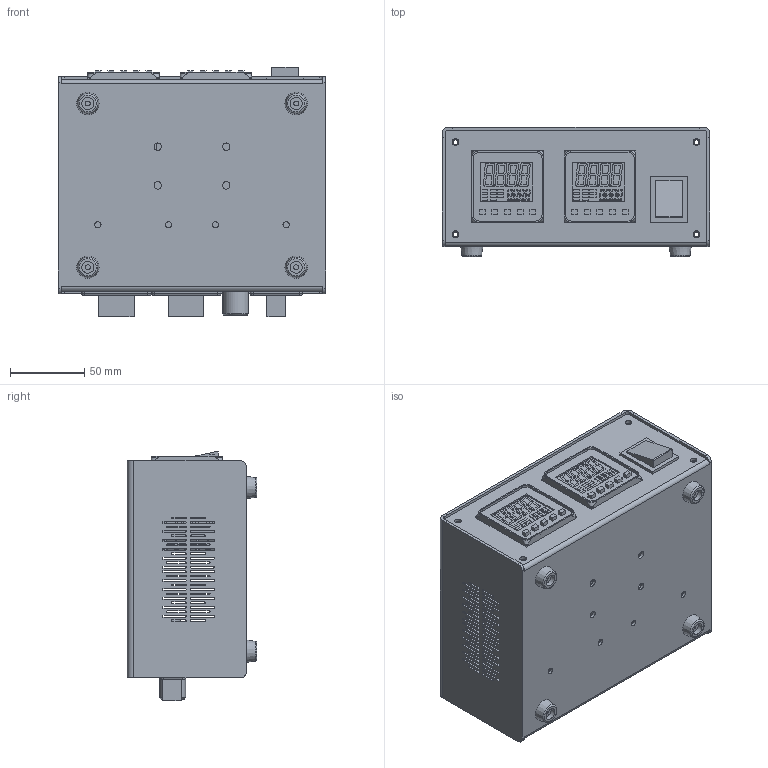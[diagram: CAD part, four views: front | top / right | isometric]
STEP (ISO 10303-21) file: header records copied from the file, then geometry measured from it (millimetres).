
FILE_DESCRIPTION(/* description */ (''),/* implementation_level */ '2;1');
FILE_NAME(/* name */ 'GTC-002.stp',/* time_stamp */ '2022-06-28T10:22:58+08:00',/* author */ (''),/* organization */ (''),/* preprocessor_version */ 'ST-DEVELOPER v16',/* originating_system */ 'SIEMENS PLM Software NX 10.0',/* authorisation */ '');
FILE_SCHEMA (('AUTOMOTIVE_DESIGN { 1 0 10303 214 3 1 1 1 }'));
Products named in the file (1): Admi2408D5D05y7l
Bounding box: 180 x 87 x 167.68 mm (x, y, z)
Volume: 483183.7 mm3; surface area: 262315.1 mm2
Topology: 1 solids, 1 shells, 3661 faces, 9489 edges, 6284 vertices
Faces by surface type: plane 3095, cylinder 537, bspline 20, cone 5, torus 4
Full cylindrical faces by diameter (mm): 1.3 x12, 2.8 x15, 3 x60, 3.25 x6, 3.3 x12, 3.4 x6, 4.2 x4, 4.5 x8, 5 x4, 5.6 x36, 5.65 x6, 8 x4, 10 x1, 17.5 x1
Entity records: 135562 total; most frequent: CARTESIAN_POINT 19483, ORIENTED_EDGE 18552, DIRECTION 17653, EDGE_CURVE 9276, LINE 8171, VECTOR 8171, VERTEX_POINT 6255, AXIS2_PLACEMENT_3D 4741
